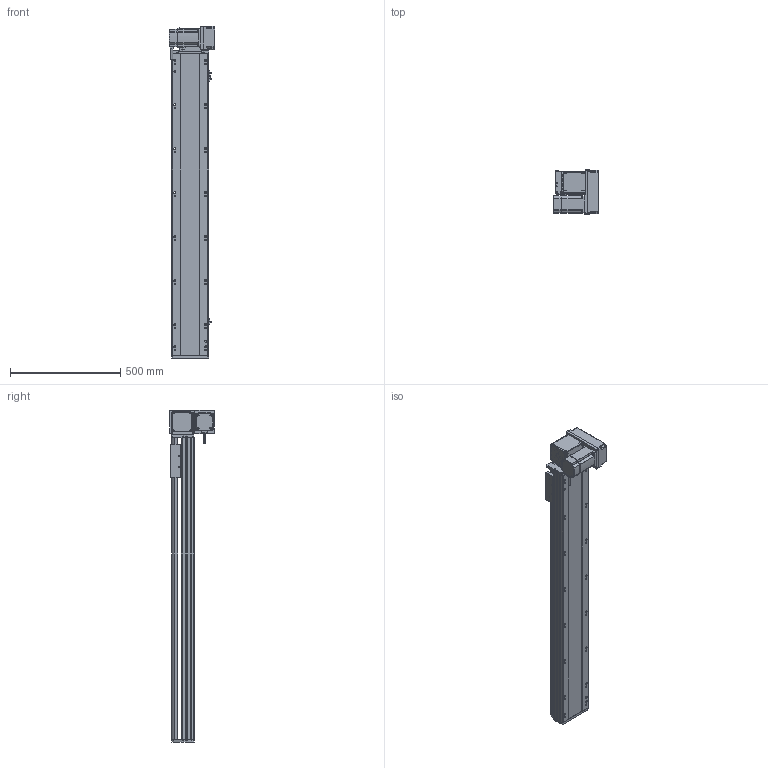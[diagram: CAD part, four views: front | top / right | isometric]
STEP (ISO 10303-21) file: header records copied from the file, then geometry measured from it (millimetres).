
FILE_DESCRIPTION (( 'STEP AP214' ), '1' );
FILE_NAME ('RTB17S-XX-1100-RM-M75-C4.STEP', '2025-12-12T02:06:40', ( '' ), ( '' ), 'SwSTEP 2.0', 'SolidWorks 2018', '' );
FILE_SCHEMA (( 'AUTOMOTIVE_DESIGN' ));
Length unit declared in the file: millimetre
Products named in the file (15): RTB22S-GY-017P^RTB17S-RM-々湍釱蚾饜-750W_RTB17S-XX-XX-RM-M75-C4; RTB17S-L-001-耜醱啣^RTB17S-XX-XX-RM-M75-C4; RTB17S-L-007奻裔^RTB17S-XX-XX-RM-M75-C4; 750W萇儂^RTB17S-XX-XX-RM-M75-C4; RTB17-R-011菁釱^RTB17S-XX-XX-RM-M75-C4; RTB22S-GY-018P^RTB17S-RM-々湍釱蚾饜-750W_RTB17S-XX-XX-RM-M75-C4; RTB17S-L-014-T20-P75--々湍釱^RTB17S-RM-々湍釱蚾饜-750W_RTB17S-XX-XX-RM-M75-C4; RTH13-BL-012覜茼え俋离^RTB17S-賑釱_RTB17S-XX-XX-RM-M75-C4; RTB22S-GY-005P^RTB17S-RM-々湍釱蚾饜-750W_RTB17S-XX-XX-RM-M75-C4; RTB17S-RM-々湍釱蚾饜-750W^RTB17S-XX-XX-RM-M75-C4; RTB17S-賑釱^RTB17S-XX-XX-RM-M75-C4; EE672^RTB17S-XX-XX-RM-M75-C4; RTB17S-XX-1100-RM-M75-C4; RTB22S-GY-008-M75--萇儂啣^RTB17S-RM-々湍釱蚾饜-750W_RTB17S-XX-XX-RM-M75-C4; RTB17S-L-004-賑釱^RTB17S-賑釱_RTB17S-XX-XX-RM-M75-C4
Assembly tree (17 placements, depth 3):
  RTB17S-XX-1100-RM-M75-C4
    RTB17-R-011菁釱^RTB17S-XX-XX-RM-M75-C4
    EE672^RTB17S-XX-XX-RM-M75-C4  x3
    RTB17S-L-001-耜醱啣^RTB17S-XX-XX-RM-M75-C4
    RTB17S-賑釱^RTB17S-XX-XX-RM-M75-C4
      RTB17S-L-004-賑釱^RTB17S-賑釱_RTB17S-XX-XX-RM-M75-C4
      RTH13-BL-012覜茼え俋离^RTB17S-賑釱_RTB17S-XX-XX-RM-M75-C4
    RTB17S-L-007奻裔^RTB17S-XX-XX-RM-M75-C4
    750W萇儂^RTB17S-XX-XX-RM-M75-C4
    RTB17S-RM-々湍釱蚾饜-750W^RTB17S-XX-XX-RM-M75-C4
      RTB17S-L-014-T20-P75--々湍釱^RTB17S-RM-々湍釱蚾饜-750W_RTB17S-XX-XX-RM-M75-C4
      RTB22S-GY-005P^RTB17S-RM-々湍釱蚾饜-750W_RTB17S-XX-XX-RM-M75-C4
      RTB22S-GY-017P^RTB17S-RM-々湍釱蚾饜-750W_RTB17S-XX-XX-RM-M75-C4  x2
      RTB22S-GY-008-M75--萇儂啣^RTB17S-RM-々湍釱蚾饜-750W_RTB17S-XX-XX-RM-M75-C4
      RTB22S-GY-018P^RTB17S-RM-々湍釱蚾饜-750W_RTB17S-XX-XX-RM-M75-C4
Bounding box: 207.4 x 200 x 1507.5 mm (x, y, z)
Volume: 12823633.8 mm3; surface area: 2194651.3 mm2
Topology: 17 solids, 17 shells, 2105 faces, 5836 edges, 3770 vertices
Faces by surface type: plane 972, cylinder 717, bspline 294, cone 110, sphere 8, torus 4
Entity records: 58870 total; most frequent: CARTESIAN_POINT 17300, ORIENTED_EDGE 8516, DIRECTION 7952, EDGE_CURVE 4258, AXIS2_PLACEMENT_3D 2790, VERTEX_POINT 2774, VECTOR 2372, LINE 2372
